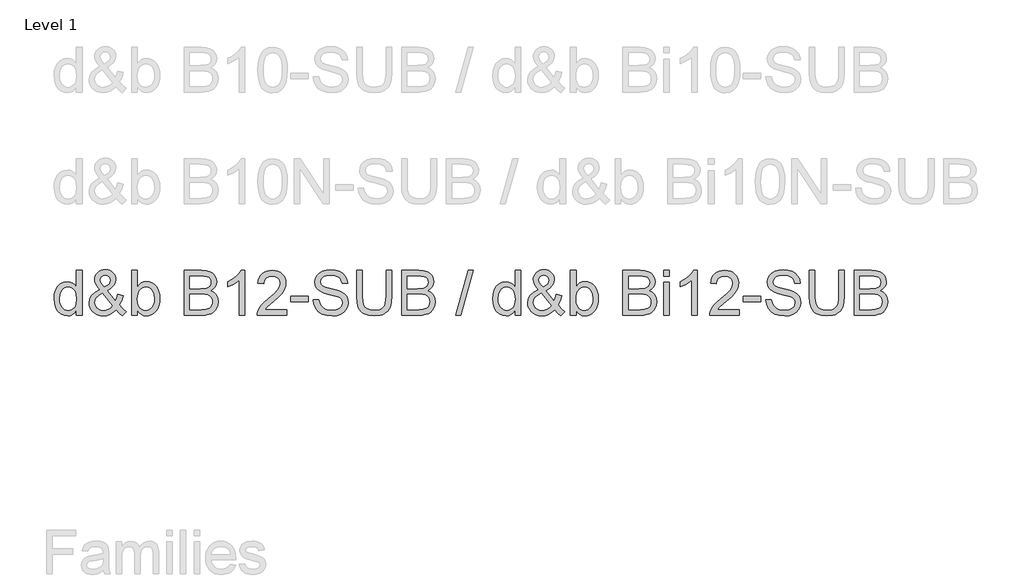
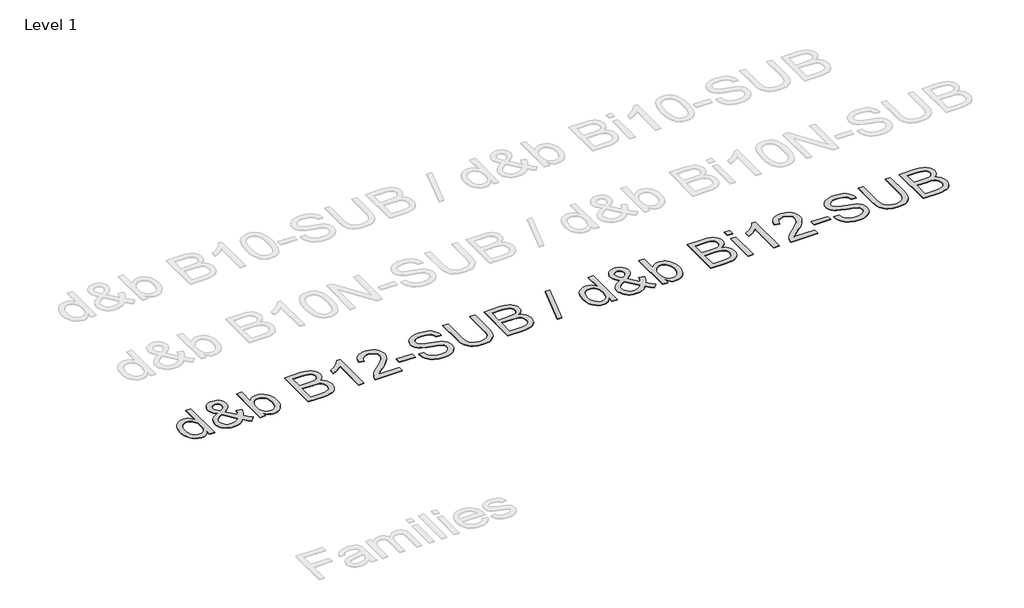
# One storey, part 18 of 29: 1 proxy.
"""IFC4 building model written with IfcOpenShell, lengths in millimetres."""

import ifcopenshell
import ifcopenshell.guid

model = None  # the IFC model being written
_history = None  # IfcOwnerHistory: only IFC2X3 demands one
_inside = {}  # id of a spatial element -> (the spatial element, [elements in it])
_under = {}  # id of a project, library or spatial element -> (it, [spatial elements below it])
_declared = {}  # id of a project -> (the project, [libraries it declares])
_typed = {}  # id of a type object -> (the type object, [elements of that type])
_made_of = {}  # id of a material, layer set ... -> (it, [elements and type objects made of it])


def new_model(schema):
    """Start an empty IFC model of exactly this schema.

    Asked for "IFC4X3", IfcOpenShell would pick the latest addendum, in which some entities
    have other attributes; the version numbers below select the first issue.
    IFC2X3 requires an IfcOwnerHistory on every rooted entity: one is made here for all.
    """
    global model, _history
    if schema == "IFC4X3":
        model = ifcopenshell.file(schema_version=(4, 3, 0, 0))
    else:
        model = ifcopenshell.file(schema=schema)
    _inside.clear()
    _under.clear()
    _declared.clear()
    _typed.clear()
    _made_of.clear()
    _history = None
    if model.schema == "IFC2X3":
        org = make("IfcOrganization", Name="unknown")
        user = make(
            "IfcPersonAndOrganization",
            ThePerson=make("IfcPerson", FamilyName="unknown"),
            TheOrganization=org,
        )
        app = make(
            "IfcApplication",
            ApplicationDeveloper=org,
            Version="unknown",
            ApplicationFullName="unknown",
            ApplicationIdentifier="unknown",
        )
        _history = make(
            "IfcOwnerHistory",
            OwningUser=user,
            OwningApplication=app,
            ChangeAction="ADDED",
            CreationDate=0,
        )
    return model


def make(cls, **values):
    """One entity of the class cls with the attributes given. An attribute that is None is left unset."""
    return model.create_entity(
        cls, **{name: value for name, value in values.items() if value is not None}
    )


def rooted(cls, **values):
    """An entity with a GlobalId (a new one), such as an element, a storey or a relation."""
    return make(cls, GlobalId=ifcopenshell.guid.new(), OwnerHistory=_history, **values)


def si_unit(unit_type, name, prefix=None):
    """IfcSIUnit, for example si_unit("LENGTHUNIT", "METRE", prefix="MILLI")."""
    return make("IfcSIUnit", UnitType=unit_type, Prefix=prefix, Name=name)


def assignment(units):
    """IfcUnitAssignment: the units of a project."""
    return None if units is None else make("IfcUnitAssignment", Units=units)


def point(xyz):
    """IfcCartesianPoint."""
    return None if xyz is None else make("IfcCartesianPoint", Coordinates=xyz)


def direction(xyz):
    """IfcDirection."""
    return None if xyz is None else make("IfcDirection", DirectionRatios=xyz)


def frame(location, z_axis=None, x_axis=None):
    """IfcAxis2Placement3D, a coordinate frame: its origin and axes. An axis left out is left unset."""
    return make(
        "IfcAxis2Placement3D",
        Location=point(location),
        Axis=direction(z_axis),
        RefDirection=direction(x_axis),
    )


def origin():
    """The frame at (0, 0, 0) with its axes left unset."""
    return frame((0.0, 0.0, 0.0))


def origin_with_axes():
    """The frame at (0, 0, 0) with the z axis (0, 0, 1) and the x axis (1, 0, 0) written out."""
    return frame((0.0, 0.0, 0.0), z_axis=(0.0, 0.0, 1.0), x_axis=(1.0, 0.0, 0.0))


def place(relative_to, where):
    """IfcLocalPlacement: puts the frame where relative to a parent placement (None: the world)."""
    return make(
        "IfcLocalPlacement", PlacementRelTo=relative_to, RelativePlacement=where
    )


def context(
    kind, dimensions, precision=None, world=None, true_north=None, identifier=None
):
    """IfcGeometricRepresentationContext, for example the 3D "Model" context."""
    return make(
        "IfcGeometricRepresentationContext",
        ContextIdentifier=identifier,
        ContextType=kind,
        CoordinateSpaceDimension=dimensions,
        Precision=precision,
        WorldCoordinateSystem=world,
        TrueNorth=true_north,
    )


def project(units=None, contexts=None):
    """IfcProject with its units and contexts."""
    return rooted(
        "IfcProject",
        Name="project",
        RepresentationContexts=contexts,
        UnitsInContext=assignment(units),
    )


def spatial(cls, under=None, at=None, **own):
    """A site, building, storey or space (cls), placed at a placement, below another one or the project."""
    s = rooted(cls, ObjectPlacement=at, **own)
    if under is not None:
        _under.setdefault(under.id(), (under, []))[1].append(s)
    return s


def polyline(points):
    """IfcPolyline through the points."""
    return make("IfcPolyline", Points=[point(p) for p in points])


def outline(outer, holes=None, kind="AREA"):
    """IfcArbitraryClosedProfileDef: a profile drawn as a closed curve; with holes, ...WithVoids."""
    if holes is None:
        return make("IfcArbitraryClosedProfileDef", ProfileType=kind, OuterCurve=outer)
    return make(
        "IfcArbitraryProfileDefWithVoids",
        ProfileType=kind,
        OuterCurve=outer,
        InnerCurves=holes,
    )


def extrude(swept, where, along, depth):
    """IfcExtrudedAreaSolid: the profile swept, set in the frame where, extruded along a direction by depth."""
    return make(
        "IfcExtrudedAreaSolid",
        SweptArea=swept,
        Position=where,
        ExtrudedDirection=direction(along),
        Depth=depth,
    )


def shape(context_of_items, identifier, shape_type, items):
    """IfcShapeRepresentation: the items that make up one representation, for example the "Body"."""
    return make(
        "IfcShapeRepresentation",
        ContextOfItems=context_of_items,
        RepresentationIdentifier=identifier,
        RepresentationType=shape_type,
        Items=items,
    )


def made_of(thing, what):
    """Note that an element or type object is made of a material, layer set ...; save() writes the relation."""
    if what is not None:
        _made_of.setdefault(what.id(), (what, []))[1].append(thing)
    return thing


def element(
    cls,
    number,
    at=None,
    inside=None,
    cuts=None,
    type_object=None,
    material=None,
    context=None,
    identifier="Body",
    shape_type=None,
    held_by="IfcProductDefinitionShape",
    body=None,
    shapes=None,
    **own,
):
    """One element of the class cls, such as IfcWall. Its Tag is "e" and its number.

    at: its placement. inside: the storey or other place that contains it. cuts: it is an
    opening in that element (IfcRelVoidsElement). A single representation is given by context,
    identifier, shape_type and body (its items); several are given by shapes. held_by: the class
    of the entity that holds the representations. save() writes the other relations.
    """
    e = rooted(cls, Tag="e%d" % number, ObjectPlacement=at, **own)
    if body is not None:
        shapes = [shape(context, identifier, shape_type, body)]
    if shapes is not None:
        e.Representation = make(held_by, Representations=shapes)
    if inside is not None:
        _inside.setdefault(inside.id(), (inside, []))[1].append(e)
    if cuts is not None:
        rooted(
            "IfcRelVoidsElement", RelatingBuildingElement=cuts, RelatedOpeningElement=e
        )
    if type_object is not None:
        _typed.setdefault(type_object.id(), (type_object, []))[1].append(e)
    return made_of(e, material)


def aggregate(whole, parts):
    """IfcRelAggregates: a whole, such as a stair, and the parts it consists of."""
    return rooted("IfcRelAggregates", RelatingObject=whole, RelatedObjects=parts)


def save(model, path):
    """Write the relations noted so far, then the file.

    IfcRelAggregates (storeys below a building ...), IfcRelContainedInSpatialStructure (elements
    in a storey), IfcRelDefinesByType, IfcRelAssociatesMaterial and IfcRelDeclares: one each for
    every whole, place, type object, material and project.
    """
    for whole, parts in _under.values():
        aggregate(whole, parts)
    for where, things in _inside.values():
        rooted(
            "IfcRelContainedInSpatialStructure",
            RelatedElements=things,
            RelatingStructure=where,
        )
    for kind, things in _typed.values():
        rooted("IfcRelDefinesByType", RelatedObjects=things, RelatingType=kind)
    for what, things in _made_of.values():
        rooted("IfcRelAssociatesMaterial", RelatedObjects=things, RelatingMaterial=what)
    for by, libraries in _declared.values():
        rooted("IfcRelDeclares", RelatingContext=by, RelatedDefinitions=libraries)
    model.write(path)


model = new_model("IFC4")

# Units and contexts
model_context = context("Model", 3, world=origin())
ifc_project = project(units=[si_unit("LENGTHUNIT", "METRE", prefix="MILLI")], contexts=[model_context])

# Site, building, storey
site = spatial("IfcSite", under=ifc_project)
building = spatial("IfcBuilding", under=site)
storey = spatial("IfcBuildingStorey", under=building, Name="Level 1", Elevation=0.0)

# Proxy
placement = place(None, origin())
element("IfcBuildingElementProxy", 1, Name="400mm Arial", ObjectType="400mm Arial", at=placement, inside=storey, context=model_context, shape_type="SweptSolid", body=[
    extrude(outline(polyline([(-20788.4119982, 8464.3636615), (-20788.4119982, 8511.7468625), (-20803.4399777, 8488.2698598), (-20821.6440051, 8471.5005722), (-20843.0240804, 8461.4389996), (-20867.5802036, 8458.0851421), (-20900.051921, 8462.9411844), (-20929.7767862, 8477.5093115), (-20954.9399147, 8500.7717163), (-20973.7264219, 8531.7105921), (-20985.4250694, 8569.0751401), (-20989.3246185, 8611.6145614), (-20985.7316377, 8653.6266853), (-20974.9526952, 8691.5675817), (-20957.0000539, 8723.2790097), (-20931.8859763, 8746.6027282), (-20901.5111863, 8760.950126), (-20867.7764073, 8765.7325919), (-20843.20189, 8762.3112894), (-20821.4723268, 8752.0473817), (-20803.0537016, 8736.3142951), (-20788.4119982, 8716.4854555), (-20788.4119982, 8866.1889021), (-20738.1838431, 8866.1889021), (-20738.1838431, 8464.3636615), (-20788.4119982, 8464.3636615)]), holes=[polyline([(-20939.0964634, 8611.8107652), (-20937.6801177, 8587.4539114), (-20933.4310807, 8566.3773388), (-20926.3493523, 8548.5810472), (-20916.4349325, 8534.0650368), (-20891.7377879, 8514.7512321), (-20877.8625053, 8509.9227809), (-20862.9694159, 8508.3132972), (-20848.0058157, 8509.8492045), (-20834.2133066, 8514.4569265), (-20810.1415614, 8532.8878145), (-20800.6348775, 8546.7968196), (-20793.844389, 8563.9493176), (-20788.4119982, 8607.9847924), (-20793.9424909, 8656.1282828), (-20800.8556067, 8674.663404), (-20810.5339688, 8689.5074425), (-20822.235682, 8700.8811276), (-20835.2188507, 8709.0051883), (-20849.4834751, 8713.8796247), (-20865.0295551, 8715.5044369), (-20880.2169501, 8713.9440041), (-20894.0922327, 8709.2627057), (-20906.6554028, 8701.4605417), (-20917.9064605, 8690.5375121), (-20927.1770868, 8676.2544937), (-20933.7989627, 8658.372363), (-20939.0964634, 8611.8107652)])]), origin_with_axes(), (0.0, 0.0, 1.0), 5.0),
    extrude(outline(polyline([(-20432.4003287, 8514.0032054), (-20457.9313392, 8489.5390527), (-20485.6696416, 8472.0646579), (-20515.664287, 8461.5800211), (-20547.9643262, 8458.0851421), (-20577.2722584, 8460.6725788), (-20603.3918801, 8468.4348889), (-20626.3231911, 8481.3720724), (-20646.0661915, 8499.4841293), (-20658.8991418, 8516.8542908), (-20668.0655348, 8535.2177338), (-20673.5653707, 8554.5744581), (-20675.3986493, 8574.9244638), (-20669.5002746, 8610.118508), (-20651.8051507, 8641.7318341), (-20622.3868538, 8669.7399167), (-20581.3189604, 8694.1182302), (-20603.2324646, 8722.4696693), (-20616.3903773, 8744.9349965), (-20622.975465, 8764.1139112), (-20625.1704942, 8782.6061128), (-20623.4414488, 8800.1602153), (-20618.2543127, 8816.5248327), (-20609.6090858, 8831.699965), (-20597.5057682, 8845.6856122), (-20582.784357, 8857.4026538), (-20566.2848495, 8865.7719692), (-20548.0072457, 8870.7935584), (-20527.9515456, 8872.4674215), (-20508.8032878, 8870.8671348), (-20491.4821772, 8866.0662748), (-20475.9882138, 8858.0648414), (-20462.3213977, 8846.8628346), (-20451.1623105, 8833.4167477), (-20443.1915339, 8818.6830738), (-20438.409068, 8802.6618129), (-20436.8149127, 8785.352965), (-20441.5360649, 8757.3694079), (-20455.6995218, 8731.4950409), (-20479.3052831, 8707.729864), (-20512.353349, 8686.0738773), (-20439.6598668, 8595.5258555), (-20427.2745063, 8621.4002225), (-20417.9793545, 8651.1496132), (-20367.7511994, 8640.2603061), (-20383.2022432, 8593.7354965), (-20403.2640747, 8557.5604336), (-20374.7164319, 8524.2548503), (-20342.6371219, 8496.7372771), (-20380.3082382, 8458.0851421), (-20405.9373505, 8481.5314879), (-20432.4003287, 8514.0032054)]), holes=[polyline([(-20537.7617322, 8717.7607798), (-20511.4949577, 8734.4258341), (-20496.4608468, 8748.908122), (-20489.3975125, 8762.9980024), (-20487.0430678, 8778.4858344), (-20490.1455392, 8796.0338056), (-20499.4529537, 8810.0255842), (-20513.4202068, 8819.1858458), (-20530.5021941, 8822.2392664), (-20547.9520634, 8819.2103713), (-20562.2381476, 8810.123686), (-20571.7662912, 8796.6714677), (-20574.9423391, 8780.5459736), (-20570.6258571, 8762.1518739), (-20557.578309, 8741.6976349), (-20537.7617322, 8717.7607798)]), polyline([(-20466.0492686, 8550.2027937), (-20555.7143735, 8662.1370221), (-20589.9641873, 8640.2848316), (-20610.8966728, 8620.0513218), (-20621.6020389, 8600.7252544), (-20625.1704942, 8581.5953906), (-20620.2899264, 8557.9037901), (-20605.648223, 8533.3292729), (-20594.8692805, 8522.3847835), (-20582.0547244, 8514.5672911), (-20567.2045545, 8509.8767957), (-20550.3187709, 8508.3132972), (-20527.5959264, 8511.2318277), (-20504.1618433, 8519.9874192), (-20482.7388484, 8533.3783238), (-20466.0492686, 8550.2027937)])]), origin_with_axes(), (0.0, 0.0, 1.0), 5.0),
    extrude(outline(polyline([(-20242.1808118, 8464.3636615), (-20292.4089668, 8464.3636615), (-20292.4089668, 8866.1889021), (-20242.1808118, 8866.1889021), (-20242.1808118, 8717.1721686), (-20225.6629102, 8738.4173538), (-20207.011293, 8753.5924861), (-20186.2259603, 8762.6975655), (-20163.306912, 8765.7325919), (-20137.432545, 8762.9980024), (-20112.9806551, 8754.7942339), (-20091.3491937, 8741.6363213), (-20073.9361126, 8724.0392992), (-20060.2876906, 8702.1748459), (-20049.9502065, 8676.2146398), (-20043.4386952, 8647.2378013), (-20041.2681915, 8616.323451), (-20043.5153373, 8580.6511602), (-20050.2567749, 8549.270826), (-20061.4925041, 8522.1824484), (-20077.2225251, 8499.3860274), (-20096.1040685, 8481.3168901), (-20116.7943651, 8468.4103634), (-20139.2934148, 8460.6664474), (-20163.6012176, 8458.0851421), (-20187.274424, 8461.4144742), (-20208.2620918, 8471.4024703), (-20226.5642211, 8488.0491306), (-20242.1808118, 8511.354455), (-20242.1808118, 8464.3636615)]), holes=[polyline([(-20242.1808118, 8613.9690062), (-20238.7472465, 8572.0795097), (-20228.4465506, 8543.7280706), (-20216.2757879, 8528.2341072), (-20202.1307252, 8517.1669905), (-20186.0113625, 8510.5267205), (-20167.9176997, 8508.3132972), (-20152.8958515, 8509.9442407), (-20138.9285984, 8514.8370712), (-20126.0159404, 8522.9917888), (-20114.1578774, 8534.4083934), (-20104.2434577, 8549.0562281), (-20097.1617293, 8566.9046363), (-20092.9126922, 8587.9536178), (-20091.4963465, 8612.2031726), (-20096.9287373, 8658.1638965), (-20103.7192258, 8675.9571224), (-20113.2259097, 8690.2922575), (-20124.6578427, 8701.322586), (-20137.2240785, 8709.201392), (-20150.9246172, 8713.9286757), (-20165.7594586, 8715.5044369), (-20180.7813068, 8713.8734934), (-20194.7485599, 8708.9806628), (-20207.6612179, 8700.8259453), (-20219.5192809, 8689.4093407), (-20229.4337006, 8674.9086587), (-20236.515429, 8657.501709), (-20240.7644661, 8637.1884915), (-20242.1808118, 8613.9690062)])]), origin_with_axes(), (0.0, 0.0, 1.0), 5.0),
    extrude(outline(polyline([(-19821.520013, 8464.3636615), (-19821.520013, 8866.1889021), (-19668.1867974, 8866.1889021), (-19626.015258, 8863.2335834), (-19593.0898195, 8854.3676273), (-19567.8531146, 8839.3703046), (-19548.7477763, 8818.0208862), (-19536.7180351, 8792.9068086), (-19532.7081213, 8766.6155087), (-19536.080373, 8742.4211362), (-19546.1971278, 8719.6737661), (-19563.1319623, 8699.7713502), (-19586.9584529, 8684.1118399), (-19558.4966492, 8669.2494073), (-19537.4660618, 8646.6369274), (-19524.4798274, 8617.7704535), (-19520.1510826, 8584.1460391), (-19523.1064013, 8556.1256938), (-19531.9723573, 8530.1409622), (-19545.2038464, 8508.0435171), (-19561.2557642, 8491.685031), (-19580.9129254, 8479.8392308), (-19604.9601452, 8471.279843), (-19634.1822383, 8466.0927069), (-19669.3640198, 8464.3636615), (-19821.520013, 8464.3636615)]), holes=[polyline([(-19771.2918579, 8702.9473981), (-19679.5666138, 8702.9473981), (-19626.0029953, 8707.2638802), (-19607.2532763, 8714.7073592), (-19593.7765325, 8725.8541837), (-19585.6463404, 8740.5326753), (-19582.9362764, 8758.5711558), (-19585.4623994, 8776.0823387), (-19593.0407685, 8791.3371788), (-19605.3280272, 8803.2442927), (-19621.9808188, 8810.7122972), (-19647.5363548, 8814.6486346), (-19686.5318462, 8815.960747), (-19771.2918579, 8815.960747), (-19771.2918579, 8702.9473981)]), polyline([(-19771.2918579, 8514.5918166), (-19668.2848993, 8514.5918166), (-19631.0061904, 8516.5538539), (-19599.4664407, 8527.4922119), (-19587.8904206, 8536.9222537), (-19578.5707434, 8549.8103862), (-19572.4271141, 8565.5802611), (-19570.3792376, 8583.6555298), (-19572.7827333, 8604.649329), (-19579.9932204, 8622.7000722), (-19592.5870474, 8636.8144781), (-19611.1405627, 8645.9992652), (-19637.4195999, 8651.0392486), (-19673.1899926, 8652.719243), (-19771.2918579, 8652.719243), (-19771.2918579, 8514.5918166)])]), origin_with_axes(), (0.0, 0.0, 1.0), 5.0),
    extrude(outline(polyline([(-19281.567346, 8464.3636615), (-19331.795501, 8464.3636615), (-19331.795501, 8777.5048158), (-19352.7647748, 8760.5454558), (-19379.3749057, 8743.6106213), (-19432.2518112, 8718.2512891), (-19432.2518112, 8765.7325919), (-19392.8025986, 8787.192375), (-19358.6263612, 8812.7233855), (-19331.6851364, 8839.8730767), (-19313.9409615, 8866.1889021), (-19281.567346, 8866.1889021), (-19281.567346, 8464.3636615)])), origin_with_axes(), (0.0, 0.0, 1.0), 5.0),
    extrude(outline(polyline([(-18904.8561829, 8514.5918166), (-18904.8561829, 8464.3636615), (-19168.553997, 8464.3636615), (-19167.4503511, 8482.0465227), (-19163.1583944, 8498.99362), (-19150.7607712, 8526.0574721), (-19132.5996634, 8552.3119838), (-19106.3451517, 8579.7927688), (-19069.6673167, 8610.5354409), (-19015.4782988, 8658.6789313), (-18982.9943187, 8694.2163321), (-18966.7707227, 8723.0582805), (-18961.3628574, 8751.115414), (-18966.4764171, 8776.2662797), (-18981.8170963, 8797.1742398), (-19005.3983322, 8811.2641202), (-19035.233562, 8815.960747), (-19066.5648452, 8811.3744848), (-19090.9063706, 8797.6156982), (-19106.6149318, 8775.7635077), (-19112.0473226, 8746.8970338), (-19162.2754777, 8753.1755532), (-19157.9559299, 8779.1051025), (-19150.0985836, 8801.760502), (-19138.7034388, 8821.1417518), (-19123.7704955, 8837.2488518), (-19105.6431102, 8849.9101238), (-19084.6646394, 8858.9538895), (-19060.8350832, 8864.3801489), (-19034.1544415, 8866.1889021), (-19007.2346765, 8864.1778138), (-18983.2763615, 8858.1445491), (-18962.2794967, 8848.0891079), (-18944.2440818, 8834.0114902), (-18929.7587283, 8816.9540284), (-18919.4120472, 8797.9590547), (-18913.2040385, 8777.0265692), (-18911.1347023, 8754.1565718), (-18913.3665197, 8730.1338775), (-18920.061972, 8706.5281162), (-18931.9445605, 8682.5176846), (-18949.7377863, 8657.2809798), (-18978.1014881, 8627.1514444), (-19021.6955046, 8588.4625212), (-19079.4775033, 8540.1473525), (-19102.1390342, 8514.5918166), (-18904.8561829, 8514.5918166)])), origin_with_axes(), (0.0, 0.0, 1.0), 5.0),
    extrude(outline(polyline([(-18867.1850666, 8583.6555298), (-18867.1850666, 8633.8836849), (-18710.222082, 8633.8836849), (-18710.222082, 8583.6555298), (-18867.1850666, 8583.6555298)])), origin_with_axes(), (0.0, 0.0, 1.0), 5.0),
    extrude(outline(polyline([(-18666.2724463, 8602.4910879), (-18616.0442912, 8602.4910879), (-18610.2808066, 8574.6178954), (-18599.8574834, 8552.2138819), (-18583.5970992, 8534.4329188), (-18560.3224317, 8520.4288776), (-18531.8728907, 8511.3421923), (-18500.0878863, 8508.3132972), (-18472.1043292, 8510.6064283), (-18447.6033884, 8517.4858216), (-18427.7500234, 8528.3751287), (-18413.7091939, 8542.698001), (-18405.3582726, 8559.1423262), (-18402.5746321, 8576.3959918), (-18404.6592968, 8593.2081989), (-18410.9132907, 8607.7395377), (-18423.6174823, 8620.137161), (-18445.0527399, 8630.5482214), (-18518.1876805, 8649.7271361), (-18566.1962809, 8662.419065), (-18596.9144275, 8674.4978571), (-18621.9181404, 8691.3959034), (-18639.6377898, 8711.8746678), (-18650.1960031, 8735.4926919), (-18653.7154075, 8761.8085173), (-18649.3621372, 8791.2268142), (-18636.3023264, 8818.6585483), (-18614.8793316, 8841.9086904), (-18585.4365092, 8858.7822113), (-18550.0953122, 8869.0461189), (-18510.9771934, 8872.4674215), (-18468.5971875, 8868.8867034), (-18431.5146824, 8858.1445491), (-18401.0540532, 8840.4616879), (-18378.5396751, 8816.0588489), (-18364.2903792, 8786.456611), (-18358.6249965, 8753.1755532), (-18408.8531515, 8753.1755532), (-18418.0747269, 8783.145673), (-18426.4379109, 8795.003736), (-18437.3026925, 8804.7771344), (-18467.3463888, 8817.8737334), (-18509.0151561, 8822.2392664), (-18551.6649421, 8817.9227843), (-18567.9682458, 8812.5271817), (-18580.9238234, 8804.9733381), (-18597.8463952, 8785.9170507), (-18603.4872524, 8763.2800453), (-18599.4896014, 8743.9785033), (-18587.4966484, 8728.4538831), (-18559.1452093, 8714.5724691), (-18505.4834889, 8700.3967496), (-18450.1049859, 8686.9322686), (-18416.6031989, 8675.1845702), (-18387.9697169, 8656.9621487), (-18367.9937246, 8634.4722961), (-18356.258289, 8607.9602669), (-18352.3464771, 8577.671316), (-18356.8469001, 8546.7079147), (-18370.3481694, 8517.5839235), (-18392.2984617, 8492.5188969), (-18422.1459543, 8473.7323896), (-18458.0389743, 8461.996954), (-18498.125849, 8458.0851421), (-18547.3361972, 8462.3035223), (-18587.8400049, 8474.958663), (-18620.1032559, 8496.0996149), (-18644.591934, 8525.7754292), (-18660.312758, 8561.9259666), (-18666.2724463, 8602.4910879)])), origin_with_axes(), (0.0, 0.0, 1.0), 5.0),
    extrude(outline(polyline([(-18013.3064303, 8866.1889021), (-17963.0782752, 8866.1889021), (-17963.0782752, 8634.3741942), (-17966.4873151, 8580.0870744), (-17976.7144345, 8538.2834171), (-17984.8998089, 8521.3301884), (-17995.8197728, 8506.0324288), (-18025.8634691, 8480.4033165), (-18045.0055956, 8470.6391152), (-18066.9190997, 8463.6646857), (-18119.0602412, 8458.0851421), (-18170.0609485, 8462.9411844), (-18210.8345363, 8477.5093115), (-18227.389226, 8488.3097137), (-18241.3932673, 8501.2867511), (-18252.8466601, 8516.4404236), (-18261.7494044, 8533.7707312), (-18273.1905344, 8577.3402222), (-18277.0042445, 8634.3741942), (-18277.0042445, 8866.1889021), (-18226.7760894, 8866.1889021), (-18226.7760894, 8636.1400278), (-18224.2990173, 8591.000907), (-18216.867801, 8559.5715218), (-18203.40332, 8537.8051705), (-18182.8264537, 8521.6551509), (-18155.9955935, 8511.6487606), (-18123.7691307, 8508.3132972), (-18096.0860106, 8509.9626348), (-18072.6825843, 8514.9106476), (-18053.558852, 8523.1573357), (-18038.7148135, 8534.702699), (-18027.5986458, 8550.9385577), (-18019.6585261, 8573.2567321), (-18014.8944543, 8601.6572221), (-18013.3064303, 8636.1400278), (-18013.3064303, 8866.1889021)])), origin_with_axes(), (0.0, 0.0, 1.0), 5.0),
    extrude(outline(polyline([(-17875.1790039, 8464.3636615), (-17875.1790039, 8866.1889021), (-17721.8457883, 8866.1889021), (-17679.6742489, 8863.2335834), (-17646.7488103, 8854.3676273), (-17621.5121055, 8839.3703046), (-17602.4067672, 8818.0208862), (-17590.3770259, 8792.9068086), (-17586.3671122, 8766.6155087), (-17589.7393638, 8742.4211362), (-17599.8561187, 8719.6737661), (-17616.7909532, 8699.7713502), (-17640.6174437, 8684.1118399), (-17612.15564, 8669.2494073), (-17591.1250527, 8646.6369274), (-17578.1388182, 8617.7704535), (-17573.8100734, 8584.1460391), (-17576.7653921, 8556.1256938), (-17585.6313482, 8530.1409622), (-17598.8628373, 8508.0435171), (-17614.914755, 8491.685031), (-17634.5719163, 8479.8392308), (-17658.619136, 8471.279843), (-17687.8412292, 8466.0927069), (-17723.0230107, 8464.3636615), (-17875.1790039, 8464.3636615)]), holes=[polyline([(-17824.9508488, 8702.9473981), (-17733.2256047, 8702.9473981), (-17679.6619862, 8707.2638802), (-17660.9122671, 8714.7073592), (-17647.4355234, 8725.8541837), (-17639.3053313, 8740.5326753), (-17636.5952673, 8758.5711558), (-17639.1213903, 8776.0823387), (-17646.6997594, 8791.3371788), (-17658.987018, 8803.2442927), (-17675.6398097, 8810.7122972), (-17701.1953456, 8814.6486346), (-17740.1908371, 8815.960747), (-17824.9508488, 8815.960747), (-17824.9508488, 8702.9473981)]), polyline([(-17824.9508488, 8514.5918166), (-17721.9438901, 8514.5918166), (-17684.6651813, 8516.5538539), (-17653.1254316, 8527.4922119), (-17641.5494115, 8536.9222537), (-17632.2297342, 8549.8103862), (-17626.0861049, 8565.5802611), (-17624.0382285, 8583.6555298), (-17626.4417242, 8604.649329), (-17633.6522113, 8622.7000722), (-17646.2460383, 8636.8144781), (-17664.7995536, 8645.9992652), (-17691.0785907, 8651.0392486), (-17726.8489834, 8652.719243), (-17824.9508488, 8652.719243), (-17824.9508488, 8514.5918166)])]), origin_with_axes(), (0.0, 0.0, 1.0), 5.0),
    extrude(outline(polyline([(-17391.7330113, 8464.3636615), (-17278.7196623, 8866.1889021), (-17233.2003968, 8866.1889021), (-17346.3118476, 8464.3636615), (-17391.7330113, 8464.3636615)])), origin_with_axes(), (0.0, 0.0, 1.0), 5.0),
    extrude(outline(polyline([(-16858.0588636, 8464.3636615), (-16858.0588636, 8511.7468625), (-16873.0868431, 8488.2698598), (-16891.2908705, 8471.5005722), (-16912.6709458, 8461.4389996), (-16937.227069, 8458.0851421), (-16969.6987864, 8462.9411844), (-16999.4236516, 8477.5093115), (-17024.5867801, 8500.7717163), (-17043.3732873, 8531.7105921), (-17055.0719347, 8569.0751401), (-17058.9714839, 8611.6145614), (-17055.3785031, 8653.6266853), (-17044.5995606, 8691.5675817), (-17026.6469193, 8723.2790097), (-17001.5328417, 8746.6027282), (-16971.1580516, 8760.950126), (-16937.4232727, 8765.7325919), (-16912.8487554, 8762.3112894), (-16891.1191922, 8752.0473817), (-16872.700567, 8736.3142951), (-16858.0588636, 8716.4854555), (-16858.0588636, 8866.1889021), (-16807.8307085, 8866.1889021), (-16807.8307085, 8464.3636615), (-16858.0588636, 8464.3636615)]), holes=[polyline([(-17008.7433288, 8611.8107652), (-17007.3269831, 8587.4539114), (-17003.0779461, 8566.3773388), (-16995.9962177, 8548.5810472), (-16986.0817979, 8534.0650368), (-16961.3846533, 8514.7512321), (-16947.5093707, 8509.9227809), (-16932.6162813, 8508.3132972), (-16917.6526811, 8509.8492045), (-16903.860172, 8514.4569265), (-16879.7884268, 8532.8878145), (-16870.2817429, 8546.7968196), (-16863.4912544, 8563.9493176), (-16858.0588636, 8607.9847924), (-16863.5893563, 8656.1282828), (-16870.5024721, 8674.663404), (-16880.1808342, 8689.5074425), (-16891.8825474, 8700.8811276), (-16904.8657161, 8709.0051883), (-16919.1303405, 8713.8796247), (-16934.6764205, 8715.5044369), (-16949.8638155, 8713.9440041), (-16963.7390981, 8709.2627057), (-16976.3022682, 8701.4605417), (-16987.5533259, 8690.5375121), (-16996.8239522, 8676.2544937), (-17003.4458281, 8658.372363), (-17008.7433288, 8611.8107652)])]), origin_with_axes(), (0.0, 0.0, 1.0), 5.0),
    extrude(outline(polyline([(-16502.0471941, 8514.0032054), (-16527.5782046, 8489.5390527), (-16555.316507, 8472.0646579), (-16585.3111524, 8461.5800211), (-16617.6111915, 8458.0851421), (-16646.9191238, 8460.6725788), (-16673.0387455, 8468.4348889), (-16695.9700565, 8481.3720724), (-16715.7130569, 8499.4841293), (-16728.5460072, 8516.8542908), (-16737.7124002, 8535.2177338), (-16743.2122361, 8554.5744581), (-16745.0455147, 8574.9244638), (-16739.14714, 8610.118508), (-16721.4520161, 8641.7318341), (-16692.0337192, 8669.7399167), (-16650.9658258, 8694.1182302), (-16672.87933, 8722.4696693), (-16686.0372427, 8744.9349965), (-16692.6223304, 8764.1139112), (-16694.8173596, 8782.6061128), (-16693.0883142, 8800.1602153), (-16687.9011781, 8816.5248327), (-16679.2559512, 8831.699965), (-16667.1526336, 8845.6856122), (-16652.4312224, 8857.4026538), (-16635.9317149, 8865.7719692), (-16617.6541111, 8870.7935584), (-16597.598411, 8872.4674215), (-16578.4501532, 8870.8671348), (-16561.1290426, 8866.0662748), (-16545.6350792, 8858.0648414), (-16531.9682631, 8846.8628346), (-16520.8091759, 8833.4167477), (-16512.8383993, 8818.6830738), (-16508.0559334, 8802.6618129), (-16506.4617781, 8785.352965), (-16511.1829303, 8757.3694079), (-16525.3463872, 8731.4950409), (-16548.9521485, 8707.729864), (-16582.0002144, 8686.0738773), (-16509.3067322, 8595.5258555), (-16496.9213717, 8621.4002225), (-16487.6262199, 8651.1496132), (-16437.3980648, 8640.2603061), (-16452.8491086, 8593.7354965), (-16472.9109401, 8557.5604336), (-16444.3632973, 8524.2548503), (-16412.2839873, 8496.7372771), (-16449.9551036, 8458.0851421), (-16475.5842159, 8481.5314879), (-16502.0471941, 8514.0032054)]), holes=[polyline([(-16535.696134, 8550.2027937), (-16625.3612389, 8662.1370221), (-16659.6110527, 8640.2848316), (-16680.5435382, 8620.0513218), (-16691.2489043, 8600.7252544), (-16694.8173596, 8581.5953906), (-16689.9367918, 8557.9037901), (-16675.2950884, 8533.3292729), (-16664.5161459, 8522.3847835), (-16651.7015898, 8514.5672911), (-16636.8514199, 8509.8767957), (-16619.9656363, 8508.3132972), (-16597.2427918, 8511.2318277), (-16573.8087087, 8519.9874192), (-16552.3857138, 8533.3783238), (-16535.696134, 8550.2027937)]), polyline([(-16607.4085976, 8717.7607798), (-16581.1418231, 8734.4258341), (-16566.1077122, 8748.908122), (-16559.0443779, 8762.9980024), (-16556.6899331, 8778.4858344), (-16559.7924046, 8796.0338056), (-16569.0998191, 8810.0255842), (-16583.0670722, 8819.1858458), (-16600.1490595, 8822.2392664), (-16617.5989288, 8819.2103713), (-16631.885013, 8810.123686), (-16641.4131566, 8796.6714677), (-16644.5892045, 8780.5459736), (-16640.2727225, 8762.1518739), (-16627.2251744, 8741.6976349), (-16607.4085976, 8717.7607798)])]), origin_with_axes(), (0.0, 0.0, 1.0), 5.0),
    extrude(outline(polyline([(-16311.8276772, 8464.3636615), (-16362.0558322, 8464.3636615), (-16362.0558322, 8866.1889021), (-16311.8276772, 8866.1889021), (-16311.8276772, 8717.1721686), (-16295.3097756, 8738.4173538), (-16276.6581584, 8753.5924861), (-16255.8728257, 8762.6975655), (-16232.9537774, 8765.7325919), (-16207.0794104, 8762.9980024), (-16182.6275205, 8754.7942339), (-16160.9960591, 8741.6363213), (-16143.582978, 8724.0392992), (-16129.934556, 8702.1748459), (-16119.5970719, 8676.2146398), (-16113.0855606, 8647.2378013), (-16110.9150569, 8616.323451), (-16113.1622027, 8580.6511602), (-16119.9036403, 8549.270826), (-16131.1393695, 8522.1824484), (-16146.8693905, 8499.3860274), (-16165.7509339, 8481.3168901), (-16186.4412305, 8468.4103634), (-16208.9402802, 8460.6664474), (-16233.248083, 8458.0851421), (-16256.9212894, 8461.4144742), (-16277.9089572, 8471.4024703), (-16296.2110865, 8488.0491306), (-16311.8276772, 8511.354455), (-16311.8276772, 8464.3636615)]), holes=[polyline([(-16311.8276772, 8613.9690062), (-16308.3941119, 8572.0795097), (-16298.093416, 8543.7280706), (-16285.9226533, 8528.2341072), (-16271.7775906, 8517.1669905), (-16255.6582279, 8510.5267205), (-16237.5645651, 8508.3132972), (-16222.5427169, 8509.9442407), (-16208.5754638, 8514.8370712), (-16195.6628058, 8522.9917888), (-16183.8047428, 8534.4083934), (-16173.8903231, 8549.0562281), (-16166.8085947, 8566.9046363), (-16162.5595576, 8587.9536178), (-16161.1432119, 8612.2031726), (-16166.5756027, 8658.1638965), (-16173.3660912, 8675.9571224), (-16182.8727751, 8690.2922575), (-16194.3047081, 8701.322586), (-16206.8709439, 8709.201392), (-16220.5714826, 8713.9286757), (-16235.406324, 8715.5044369), (-16250.4281722, 8713.8734934), (-16264.3954252, 8708.9806628), (-16277.3080833, 8700.8259453), (-16289.1661463, 8689.4093407), (-16299.080566, 8674.9086587), (-16306.1622944, 8657.501709), (-16310.4113315, 8637.1884915), (-16311.8276772, 8613.9690062)])]), origin_with_axes(), (0.0, 0.0, 1.0), 5.0),
    extrude(outline(polyline([(-15891.1668784, 8464.3636615), (-15891.1668784, 8866.1889021), (-15737.8336628, 8866.1889021), (-15695.6621234, 8863.2335834), (-15662.7366849, 8854.3676273), (-15637.49998, 8839.3703046), (-15618.3946417, 8818.0208862), (-15606.3649005, 8792.9068086), (-15602.3549867, 8766.6155087), (-15605.7272383, 8742.4211362), (-15615.8439932, 8719.6737661), (-15632.7788277, 8699.7713502), (-15656.6053183, 8684.1118399), (-15628.1435146, 8669.2494073), (-15607.1129272, 8646.6369274), (-15594.1266928, 8617.7704535), (-15589.797948, 8584.1460391), (-15592.7532667, 8556.1256938), (-15601.6192227, 8530.1409622), (-15614.8507118, 8508.0435171), (-15630.9026296, 8491.685031), (-15650.5597908, 8479.8392308), (-15674.6070106, 8471.279843), (-15703.8291037, 8466.0927069), (-15739.0108852, 8464.3636615), (-15891.1668784, 8464.3636615)]), holes=[polyline([(-15840.9387233, 8702.9473981), (-15749.2134792, 8702.9473981), (-15695.6498607, 8707.2638802), (-15676.9001417, 8714.7073592), (-15663.4233979, 8725.8541837), (-15655.2932058, 8740.5326753), (-15652.5831418, 8758.5711558), (-15655.1092648, 8776.0823387), (-15662.6876339, 8791.3371788), (-15674.9748926, 8803.2442927), (-15691.6276842, 8810.7122972), (-15717.1832202, 8814.6486346), (-15756.1787116, 8815.960747), (-15840.9387233, 8815.960747), (-15840.9387233, 8702.9473981)]), polyline([(-15840.9387233, 8514.5918166), (-15737.9317647, 8514.5918166), (-15700.6530558, 8516.5538539), (-15669.1133061, 8527.4922119), (-15657.537286, 8536.9222537), (-15648.2176088, 8549.8103862), (-15642.0739795, 8565.5802611), (-15640.026103, 8583.6555298), (-15642.4295987, 8604.649329), (-15649.6400858, 8622.7000722), (-15662.2339128, 8636.8144781), (-15680.7874281, 8645.9992652), (-15707.0664653, 8651.0392486), (-15742.836858, 8652.719243), (-15840.9387233, 8652.719243), (-15840.9387233, 8514.5918166)])]), origin_with_axes(), (0.0, 0.0, 1.0), 5.0),
    extrude(outline(polyline([(-15527.0127541, 8815.960747), (-15527.0127541, 8866.1889021), (-15476.784599, 8866.1889021), (-15476.784599, 8815.960747), (-15527.0127541, 8815.960747)])), origin_with_axes(), (0.0, 0.0, 1.0), 5.0),
    extrude(outline(polyline([(-15527.0127541, 8464.3636615), (-15527.0127541, 8759.4540726), (-15476.784599, 8759.4540726), (-15476.784599, 8464.3636615), (-15527.0127541, 8464.3636615)])), origin_with_axes(), (0.0, 0.0, 1.0), 5.0),
    extrude(outline(polyline([(-15225.6438237, 8464.3636615), (-15275.8719787, 8464.3636615), (-15275.8719787, 8777.5048158), (-15296.8412525, 8760.5454558), (-15323.4513835, 8743.6106213), (-15376.3282889, 8718.2512891), (-15376.3282889, 8765.7325919), (-15336.8790763, 8787.192375), (-15302.7028389, 8812.7233855), (-15275.7616141, 8839.8730767), (-15258.0174392, 8866.1889021), (-15225.6438237, 8866.1889021), (-15225.6438237, 8464.3636615)])), origin_with_axes(), (0.0, 0.0, 1.0), 5.0),
    extrude(outline(polyline([(-14848.9326606, 8514.5918166), (-14848.9326606, 8464.3636615), (-15112.6304747, 8464.3636615), (-15111.5268288, 8482.0465227), (-15107.2348722, 8498.99362), (-15094.8372489, 8526.0574721), (-15076.6761411, 8552.3119838), (-15050.4216294, 8579.7927688), (-15013.7437944, 8610.5354409), (-14959.5547766, 8658.6789313), (-14927.0707964, 8694.2163321), (-14910.8472004, 8723.0582805), (-14905.4393351, 8751.115414), (-14910.5528948, 8776.2662797), (-14925.893574, 8797.1742398), (-14949.4748099, 8811.2641202), (-14979.3100397, 8815.960747), (-15010.641323, 8811.3744848), (-15034.9828483, 8797.6156982), (-15050.6914095, 8775.7635077), (-15056.1238003, 8746.8970338), (-15106.3519554, 8753.1755532), (-15102.0324076, 8779.1051025), (-15094.1750613, 8801.760502), (-15082.7799165, 8821.1417518), (-15067.8469732, 8837.2488518), (-15049.7195879, 8849.9101238), (-15028.7411171, 8858.9538895), (-15004.9115609, 8864.3801489), (-14978.2309192, 8866.1889021), (-14951.3111542, 8864.1778138), (-14927.3528392, 8858.1445491), (-14906.3559744, 8848.0891079), (-14888.3205596, 8834.0114902), (-14873.835206, 8816.9540284), (-14863.4885249, 8797.9590547), (-14857.2805162, 8777.0265692), (-14855.21118, 8754.1565718), (-14857.4429974, 8730.1338775), (-14864.1384497, 8706.5281162), (-14876.0210382, 8682.5176846), (-14893.814264, 8657.2809798), (-14922.1779658, 8627.1514444), (-14965.7719823, 8588.4625212), (-15023.553981, 8540.1473525), (-15046.2155119, 8514.5918166), (-14848.9326606, 8514.5918166)])), origin_with_axes(), (0.0, 0.0, 1.0), 5.0),
    extrude(outline(polyline([(-14811.2615443, 8583.6555298), (-14811.2615443, 8633.8836849), (-14654.2985597, 8633.8836849), (-14654.2985597, 8583.6555298), (-14811.2615443, 8583.6555298)])), origin_with_axes(), (0.0, 0.0, 1.0), 5.0),
    extrude(outline(polyline([(-14610.348924, 8602.4910879), (-14560.1207689, 8602.4910879), (-14554.3572843, 8574.6178954), (-14543.9339611, 8552.2138819), (-14527.673577, 8534.4329188), (-14504.3989094, 8520.4288776), (-14475.9493684, 8511.3421923), (-14444.164364, 8508.3132972), (-14416.1808069, 8510.6064283), (-14391.6798661, 8517.4858216), (-14371.8265011, 8528.3751287), (-14357.7856716, 8542.698001), (-14349.4347503, 8559.1423262), (-14346.6511099, 8576.3959918), (-14348.7357745, 8593.2081989), (-14354.9897684, 8607.7395377), (-14367.69396, 8620.137161), (-14389.1292176, 8630.5482214), (-14462.2641582, 8649.7271361), (-14510.2727586, 8662.419065), (-14540.9909052, 8674.4978571), (-14565.9946181, 8691.3959034), (-14583.7142675, 8711.8746678), (-14594.2724808, 8735.4926919), (-14597.7918852, 8761.8085173), (-14593.438615, 8791.2268142), (-14580.3788041, 8818.6585483), (-14558.9558093, 8841.9086904), (-14529.5129869, 8858.7822113), (-14494.1717899, 8869.0461189), (-14455.0536711, 8872.4674215), (-14412.6736653, 8868.8867034), (-14375.5911601, 8858.1445491), (-14345.1305309, 8840.4616879), (-14322.6161528, 8816.0588489), (-14308.3668569, 8786.456611), (-14302.7014742, 8753.1755532), (-14352.9296292, 8753.1755532), (-14362.1512046, 8783.145673), (-14370.5143886, 8795.003736), (-14381.3791702, 8804.7771344), (-14411.4228665, 8817.8737334), (-14453.0916338, 8822.2392664), (-14495.7414198, 8817.9227843), (-14512.0447235, 8812.5271817), (-14525.0003011, 8804.9733381), (-14541.9228729, 8785.9170507), (-14547.5637302, 8763.2800453), (-14543.5660791, 8743.9785033), (-14531.5731261, 8728.4538831), (-14503.221687, 8714.5724691), (-14449.5599666, 8700.3967496), (-14394.1814636, 8686.9322686), (-14360.6796766, 8675.1845702), (-14332.0461946, 8656.9621487), (-14312.0702023, 8634.4722961), (-14300.3347667, 8607.9602669), (-14296.4229548, 8577.671316), (-14300.9233779, 8546.7079147), (-14314.4246471, 8517.5839235), (-14336.3749395, 8492.5188969), (-14366.222432, 8473.7323896), (-14402.115452, 8461.996954), (-14442.2023267, 8458.0851421), (-14491.412675, 8462.3035223), (-14531.9164826, 8474.958663), (-14564.1797336, 8496.0996149), (-14588.6684118, 8525.7754292), (-14604.3892357, 8561.9259666), (-14610.348924, 8602.4910879)])), origin_with_axes(), (0.0, 0.0, 1.0), 5.0),
    extrude(outline(polyline([(-13957.382908, 8866.1889021), (-13907.154753, 8866.1889021), (-13907.154753, 8634.3741942), (-13910.5637928, 8580.0870744), (-13920.7909122, 8538.2834171), (-13928.9762866, 8521.3301884), (-13939.8962505, 8506.0324288), (-13969.9399468, 8480.4033165), (-13989.0820733, 8470.6391152), (-14010.9955775, 8463.6646857), (-14063.1367189, 8458.0851421), (-14114.1374262, 8462.9411844), (-14154.911014, 8477.5093115), (-14171.4657038, 8488.3097137), (-14185.469745, 8501.2867511), (-14196.9231378, 8516.4404236), (-14205.8258821, 8533.7707312), (-14217.2670122, 8577.3402222), (-14221.0807222, 8634.3741942), (-14221.0807222, 8866.1889021), (-14170.8525671, 8866.1889021), (-14170.8525671, 8636.1400278), (-14168.375495, 8591.000907), (-14160.9442787, 8559.5715218), (-14147.4797977, 8537.8051705), (-14126.9029314, 8521.6551509), (-14100.0720712, 8511.6487606), (-14067.8456084, 8508.3132972), (-14040.1624883, 8509.9626348), (-14016.759062, 8514.9106476), (-13997.6353297, 8523.1573357), (-13982.7912912, 8534.702699), (-13971.6751235, 8550.9385577), (-13963.7350038, 8573.2567321), (-13958.970932, 8601.6572221), (-13957.382908, 8636.1400278), (-13957.382908, 8866.1889021)])), origin_with_axes(), (0.0, 0.0, 1.0), 5.0),
    extrude(outline(polyline([(-13819.2554816, 8464.3636615), (-13819.2554816, 8866.1889021), (-13665.922266, 8866.1889021), (-13623.7507266, 8863.2335834), (-13590.825288, 8854.3676273), (-13565.5885832, 8839.3703046), (-13546.4832449, 8818.0208862), (-13534.4535036, 8792.9068086), (-13530.4435899, 8766.6155087), (-13533.8158415, 8742.4211362), (-13543.9325964, 8719.6737661), (-13560.8674309, 8699.7713502), (-13584.6939214, 8684.1118399), (-13556.2321178, 8669.2494073), (-13535.2015304, 8646.6369274), (-13522.2152959, 8617.7704535), (-13517.8865511, 8584.1460391), (-13520.8418698, 8556.1256938), (-13529.7078259, 8530.1409622), (-13542.939315, 8508.0435171), (-13558.9912327, 8491.685031), (-13578.648394, 8479.8392308), (-13602.6956137, 8471.279843), (-13631.9177069, 8466.0927069), (-13667.0994884, 8464.3636615), (-13819.2554816, 8464.3636615)]), holes=[polyline([(-13769.0273265, 8514.5918166), (-13666.0203678, 8514.5918166), (-13628.741659, 8516.5538539), (-13597.2019093, 8527.4922119), (-13585.6258892, 8536.9222537), (-13576.306212, 8549.8103862), (-13570.1625826, 8565.5802611), (-13568.1147062, 8583.6555298), (-13570.5182019, 8604.649329), (-13577.728689, 8622.7000722), (-13590.322516, 8636.8144781), (-13608.8760313, 8645.9992652), (-13635.1550685, 8651.0392486), (-13670.9254611, 8652.719243), (-13769.0273265, 8652.719243), (-13769.0273265, 8514.5918166)]), polyline([(-13769.0273265, 8702.9473981), (-13677.3020824, 8702.9473981), (-13623.7384639, 8707.2638802), (-13604.9887448, 8714.7073592), (-13591.5120011, 8725.8541837), (-13583.381809, 8740.5326753), (-13580.671745, 8758.5711558), (-13583.197868, 8776.0823387), (-13590.7762371, 8791.3371788), (-13603.0634957, 8803.2442927), (-13619.7162874, 8810.7122972), (-13645.2718233, 8814.6486346), (-13684.2673148, 8815.960747), (-13769.0273265, 8815.960747), (-13769.0273265, 8702.9473981)])]), origin_with_axes(), (0.0, 0.0, 1.0), 5.0),
])

save(model, "model.ifc")
